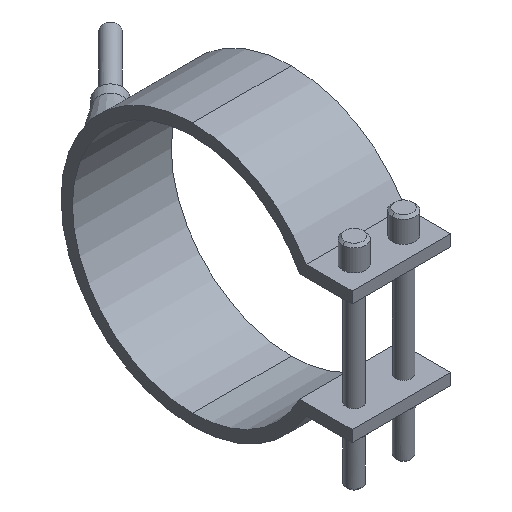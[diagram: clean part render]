
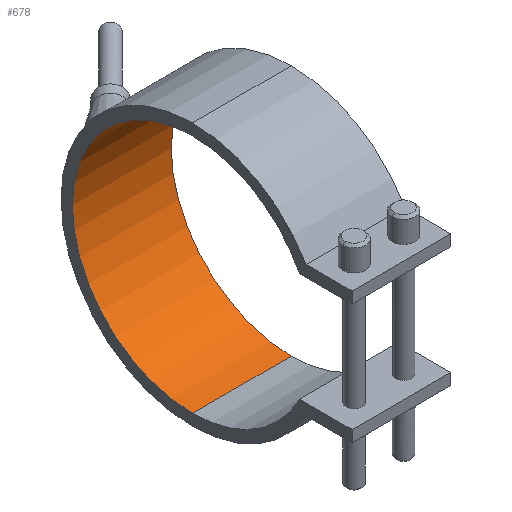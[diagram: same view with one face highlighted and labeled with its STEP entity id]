
A CAD part, isometric view. The second image highlights one B-rep face of the part: STEP entity #678.
In plain terms, the highlighted cylindrical face has radius 42.5 mm (diameter 85 mm), a partial arc.
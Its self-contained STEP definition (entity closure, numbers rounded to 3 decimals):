
#348=CARTESIAN_POINT('Vertex',(17.5,0.,42.5)) ;
#353=CARTESIAN_POINT('Axis2P3D Location',(17.5,0.,0.)) ;
#357=CARTESIAN_POINT('Vertex',(17.5,0.,-42.5)) ;
#464=CARTESIAN_POINT('Vertex',(-17.5,0.,-42.5)) ;
#467=CARTESIAN_POINT('Axis2P3D Location',(-17.5,0.,0.)) ;
#471=CARTESIAN_POINT('Vertex',(-17.5,0.,42.5)) ;
#650=CARTESIAN_POINT('Line Origine',(17.5,0.,42.5)) ;
#662=CARTESIAN_POINT('Axis2P3D Location',(17.5,0.,0.)) ;
#667=CARTESIAN_POINT('Line Origine',(17.5,0.,-42.5)) ;
#354=DIRECTION('Axis2P3D Direction',(1.,0.,0.)) ;
#468=DIRECTION('Axis2P3D Direction',(1.,0.,0.)) ;
#651=DIRECTION('Vector Direction',(1.,0.,0.)) ;
#663=DIRECTION('Axis2P3D Direction',(1.,0.,-0.)) ;
#664=DIRECTION('Axis2P3D XDirection',(0.,0.,-1.)) ;
#668=DIRECTION('Vector Direction',(1.,0.,0.)) ;
#355=AXIS2_PLACEMENT_3D('Circle Axis2P3D',#353,#354,$) ;
#469=AXIS2_PLACEMENT_3D('Circle Axis2P3D',#467,#468,$) ;
#665=AXIS2_PLACEMENT_3D('Cylinder Axis2P3D',#662,#663,#664) ;
#673=ORIENTED_EDGE('',*,*,#359,.T.) ;
#674=ORIENTED_EDGE('',*,*,#654,.T.) ;
#675=ORIENTED_EDGE('',*,*,#473,.F.) ;
#676=ORIENTED_EDGE('',*,*,#671,.T.) ;
#652=VECTOR('Line Direction',#651,1.) ;
#669=VECTOR('Line Direction',#668,1.) ;
#678=ADVANCED_FACE('29085035',(#677),#666,.F.) ;
#356=CIRCLE('generated circle',#355,42.5) ;
#470=CIRCLE('generated circle',#469,42.5) ;
#666=CYLINDRICAL_SURFACE('generated cylinder',#665,42.5) ;
#359=EDGE_CURVE('',#358,#349,#356,.T.) ;
#473=EDGE_CURVE('',#465,#472,#470,.T.) ;
#654=EDGE_CURVE('',#349,#472,#653,.F.) ;
#671=EDGE_CURVE('',#465,#358,#670,.T.) ;
#672=EDGE_LOOP('',(#673,#674,#675,#676)) ;
#677=FACE_OUTER_BOUND('',#672,.T.) ;
#653=LINE('Line',#650,#652) ;
#670=LINE('Line',#667,#669) ;
#349=VERTEX_POINT('',#348) ;
#358=VERTEX_POINT('',#357) ;
#465=VERTEX_POINT('',#464) ;
#472=VERTEX_POINT('',#471) ;
